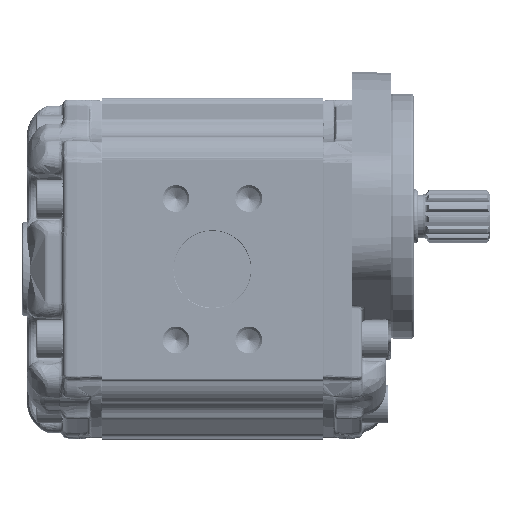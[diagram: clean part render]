
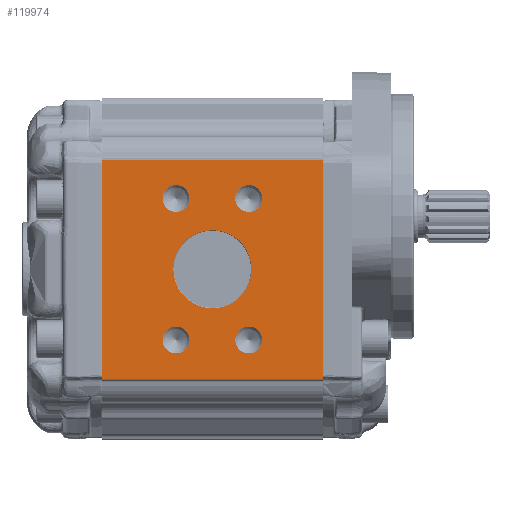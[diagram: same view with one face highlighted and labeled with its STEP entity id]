
A CAD part, left-side view. The second image highlights one B-rep face of the part: STEP entity #119974.
In plain terms, the highlighted planar face has unit normal (-1, 0, 0).
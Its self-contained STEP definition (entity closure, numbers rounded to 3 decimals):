
#7427=PLANE('',#126409);
#10215=LINE('',#218289,#15034);
#10226=LINE('',#218374,#15045);
#10264=LINE('',#218482,#15083);
#10265=LINE('',#218483,#15084);
#15034=VECTOR('',#139879,1000.);
#15045=VECTOR('',#139954,1000.);
#15083=VECTOR('',#140080,1000.);
#15084=VECTOR('',#140081,1000.);
#30791=ORIENTED_EDGE('',*,*,#52098,.T.);
#30792=ORIENTED_EDGE('',*,*,#52099,.T.);
#30793=ORIENTED_EDGE('',*,*,#52100,.T.);
#30794=ORIENTED_EDGE('',*,*,#52101,.T.);
#30795=ORIENTED_EDGE('',*,*,#52102,.T.);
#30796=ORIENTED_EDGE('',*,*,#52002,.F.);
#30797=ORIENTED_EDGE('',*,*,#52103,.T.);
#30798=ORIENTED_EDGE('',*,*,#52044,.F.);
#30799=ORIENTED_EDGE('',*,*,#52104,.T.);
#52002=EDGE_CURVE('',#63549,#63550,#10215,.T.);
#52044=EDGE_CURVE('',#63591,#63592,#10226,.T.);
#52098=EDGE_CURVE('',#63613,#63613,#70327,.F.);
#52099=EDGE_CURVE('',#63614,#63614,#70328,.F.);
#52100=EDGE_CURVE('',#63615,#63615,#70329,.F.);
#52101=EDGE_CURVE('',#63616,#63616,#70330,.F.);
#52102=EDGE_CURVE('',#63617,#63617,#70331,.F.);
#52103=EDGE_CURVE('',#63549,#63592,#10264,.F.);
#52104=EDGE_CURVE('',#63591,#63550,#10265,.F.);
#63549=VERTEX_POINT('',#218288);
#63550=VERTEX_POINT('',#218290);
#63591=VERTEX_POINT('',#218373);
#63592=VERTEX_POINT('',#218375);
#63613=VERTEX_POINT('',#218473);
#63614=VERTEX_POINT('',#218475);
#63615=VERTEX_POINT('',#218477);
#63616=VERTEX_POINT('',#218479);
#63617=VERTEX_POINT('',#218481);
#70327=CIRCLE('',#126410,5.575);
#70328=CIRCLE('',#126411,5.575);
#70329=CIRCLE('',#126412,5.575);
#70330=CIRCLE('',#126413,5.575);
#70331=CIRCLE('',#126414,16.2);
#74730=EDGE_LOOP('',(#30791));
#74731=EDGE_LOOP('',(#30792));
#74732=EDGE_LOOP('',(#30793));
#74733=EDGE_LOOP('',(#30794));
#74734=EDGE_LOOP('',(#30795));
#74735=EDGE_LOOP('',(#30796,#30797,#30798,#30799));
#79944=FACE_BOUND('',#74730,.T.);
#79945=FACE_BOUND('',#74731,.T.);
#79946=FACE_BOUND('',#74732,.T.);
#79947=FACE_BOUND('',#74733,.T.);
#79948=FACE_BOUND('',#74734,.T.);
#79949=FACE_BOUND('',#74735,.T.);
#119974=ADVANCED_FACE('',(#79944,#79945,#79946,#79947,#79948,#79949),#7427,
 .T.);
#126409=AXIS2_PLACEMENT_3D('',#218471,#140068,#140069);
#126410=AXIS2_PLACEMENT_3D('',#218472,#140070,#140071);
#126411=AXIS2_PLACEMENT_3D('',#218474,#140072,#140073);
#126412=AXIS2_PLACEMENT_3D('',#218476,#140074,#140075);
#126413=AXIS2_PLACEMENT_3D('',#218478,#140076,#140077);
#126414=AXIS2_PLACEMENT_3D('',#218480,#140078,#140079);
#139879=DIRECTION('',(0.,0.,1.));
#139954=DIRECTION('',(0.,0.,-1.));
#140068=DIRECTION('',(-1.,0.,0.));
#140069=DIRECTION('',(0.,0.,-1.));
#140070=DIRECTION('',(-1.,0.,0.));
#140071=DIRECTION('',(0.,0.,-1.));
#140072=DIRECTION('',(-1.,0.,0.));
#140073=DIRECTION('',(0.,0.,-1.));
#140074=DIRECTION('',(-1.,0.,0.));
#140075=DIRECTION('',(0.,0.,-1.));
#140076=DIRECTION('',(-1.,0.,0.));
#140077=DIRECTION('',(0.,0.,-1.));
#140078=DIRECTION('',(-1.,0.,0.));
#140079=DIRECTION('',(0.,0.,-1.));
#140080=DIRECTION('',(0.,1.,0.));
#140081=DIRECTION('',(0.,-1.,0.));
#218288=CARTESIAN_POINT('',(-57.5,92.,-45.5));
#218289=CARTESIAN_POINT('',(-57.5,92.,-84.819));
#218290=CARTESIAN_POINT('',(-57.5,92.,45.5));
#218373=CARTESIAN_POINT('',(-57.5,0.,45.5));
#218374=CARTESIAN_POINT('',(-57.5,0.,-44.978));
#218375=CARTESIAN_POINT('',(-57.5,0.,-45.5));
#218471=CARTESIAN_POINT('',(-57.5,-138.655,-84.819));
#218472=CARTESIAN_POINT('',(-57.5,61.09,29.36));
#218473=CARTESIAN_POINT('',(-57.5,61.09,23.785));
#218474=CARTESIAN_POINT('',(-57.5,30.91,29.36));
#218475=CARTESIAN_POINT('',(-57.5,30.91,23.785));
#218476=CARTESIAN_POINT('',(-57.5,61.09,-29.36));
#218477=CARTESIAN_POINT('',(-57.5,61.09,-34.935));
#218478=CARTESIAN_POINT('',(-57.5,30.91,-29.36));
#218479=CARTESIAN_POINT('',(-57.5,30.91,-34.935));
#218480=CARTESIAN_POINT('',(-57.5,46.,0.));
#218481=CARTESIAN_POINT('',(-57.5,46.,-16.2));
#218482=CARTESIAN_POINT('',(-57.5,-138.655,-45.5));
#218483=CARTESIAN_POINT('',(-57.5,-138.655,45.5));
